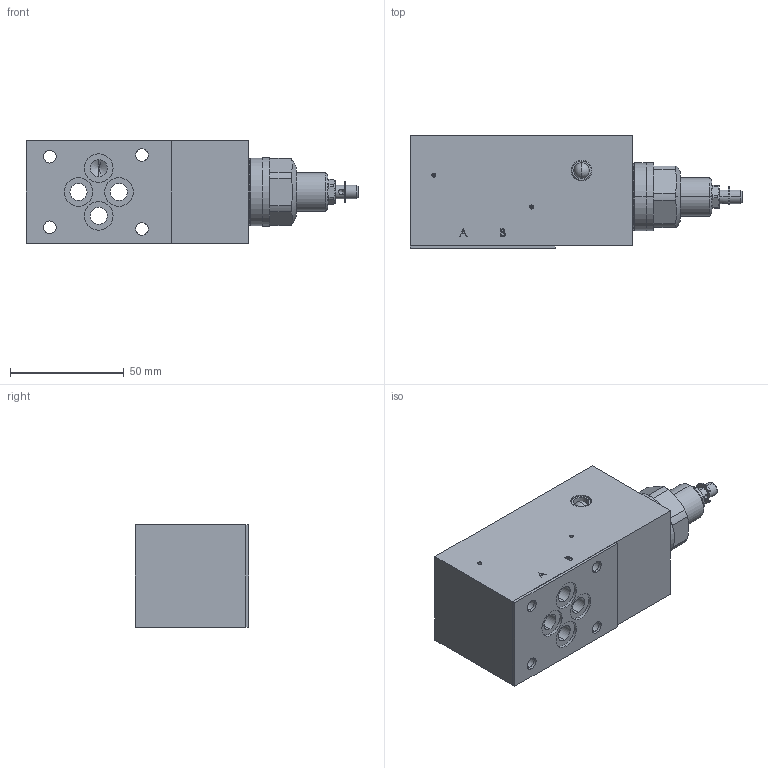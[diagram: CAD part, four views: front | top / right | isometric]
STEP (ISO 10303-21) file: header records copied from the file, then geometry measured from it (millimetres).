
FILE_DESCRIPTION (( 'STEP AP214' ), '1' );
FILE_NAME ('QZSSA06-P.STEP', '2017-04-19T11:16:31', ( '' ), ( '' ), 'SwSTEP 2.0', 'SolidWorks 2016', '' );
FILE_SCHEMA (( 'AUTOMOTIVE_DESIGN' ));
Length unit declared in the file: millimetre
Products named in the file (1): QZSSA06-P
Bounding box: 146.1 x 49.75 x 45 mm (x, y, z)
Volume: 220188.8 mm3; surface area: 39833.4 mm2
Topology: 3 solids, 7 shells, 300 faces, 750 edges, 465 vertices
Faces by surface type: cylinder 113, plane 104, cone 60, torus 10, bspline 9, sphere 4
Entity records: 13007 total; most frequent: CARTESIAN_POINT 2431, DIRECTION 1558, ORIENTED_EDGE 1464, EDGE_CURVE 732, AXIS2_PLACEMENT_3D 608, VERTEX_POINT 465, EDGE_LOOP 357, LINE 342
